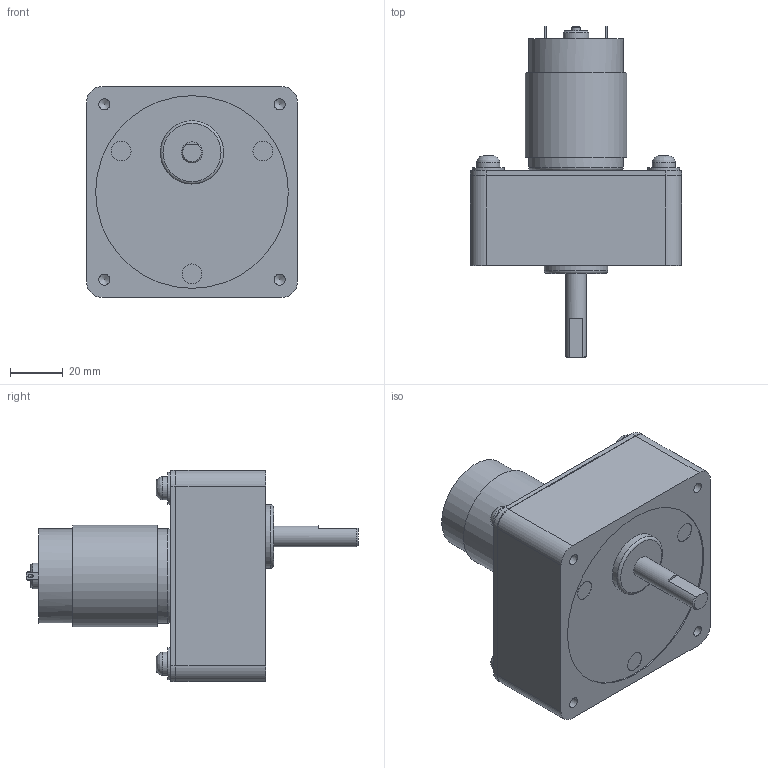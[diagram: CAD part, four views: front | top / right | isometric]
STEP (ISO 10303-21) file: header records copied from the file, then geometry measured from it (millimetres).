
FILE_DESCRIPTION(/* description */ (''),/* implementation_level */ '2;1');
FILE_NAME(/* name */ 'TP-3850#-DE-2~3.stp',/* time_stamp */ '2024-02-23T10:43:48+09:00',/* author */ ('user'),/* organization */ (''),/* preprocessor_version */ 'ST-DEVELOPER v20',/* originating_system */ 'Autodesk Inventor 2024',/* authorisation */ '');
FILE_SCHEMA (('AUTOMOTIVE_DESIGN { 1 0 10303 214 3 1 1 }'));
Length unit declared in the file: millimetre
Products named in the file (3): TP-3850#-DE-5~150-J00-24; DE-2・3; TP-3850K(RS-645)
Assembly tree (2 placements, depth 2):
  TP-3850#-DE-5~150-J00-24
    DE-2・3
    TP-3850K(RS-645)
Bounding box: 80 x 125.8 x 80 mm (x, y, z)
Volume: 286376.2 mm3; surface area: 35101.9 mm2
Topology: 2 solids, 2 shells, 158 faces, 349 edges, 230 vertices
Faces by surface type: plane 79, cylinder 56, torus 10, cone 9, bspline 4
Full cylindrical faces by diameter (mm): 1.5 x1, 2.459 x2, 2.5 x5, 3.17 x2, 4.134 x4, 7.4 x1, 7.5 x3, 8 x1, 8.8 x4, 9.8 x1, 11 x1, 12 x4, 13 x1, 15 x1, 24 x1, 34.8 x1, 35.8 x1, 73 x1
Entity records: 4661 total; most frequent: CARTESIAN_POINT 844, DIRECTION 820, ORIENTED_EDGE 686, EDGE_CURVE 343, AXIS2_PLACEMENT_3D 320, VERTEX_POINT 230, EDGE_LOOP 203, LINE 180
